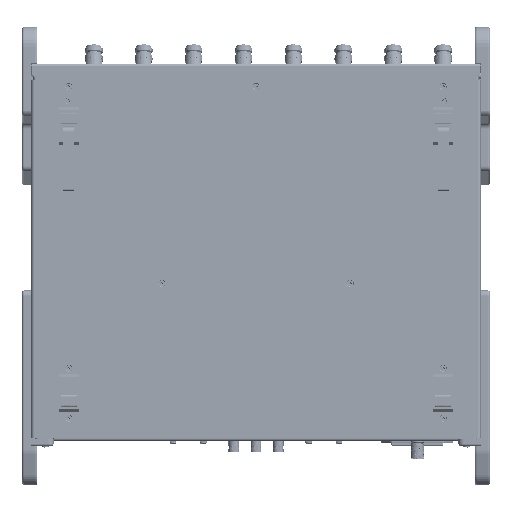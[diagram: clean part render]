
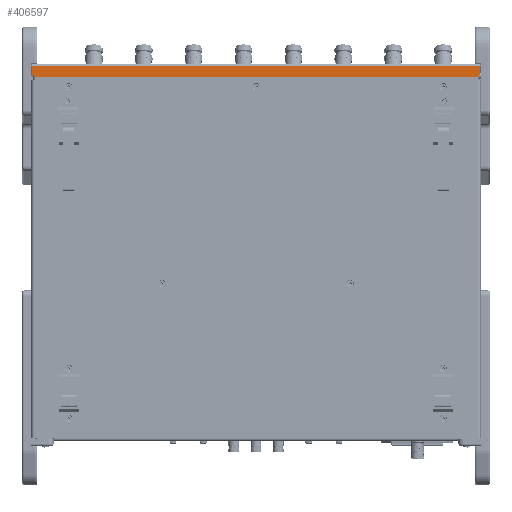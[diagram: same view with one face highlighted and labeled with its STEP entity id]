
A CAD part, front view. The second image highlights one B-rep face of the part: STEP entity #406597.
In plain terms, the highlighted planar face has unit normal (0, -1, 0).
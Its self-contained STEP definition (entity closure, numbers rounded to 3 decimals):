
#8606 = CARTESIAN_POINT ( 'NONE',  ( 201.75, -44., 334.7 ) ) ;
#13978 = EDGE_CURVE ( 'NONE', #254288, #163078, #239629, .T. ) ;
#41093 = EDGE_CURVE ( 'NONE', #395639, #87879, #345083, .T. ) ;
#66306 = CARTESIAN_POINT ( 'NONE',  ( 201.75, -44., 334.7 ) ) ;
#79647 = CARTESIAN_POINT ( 'NONE',  ( -201.75, -44., 328. ) ) ;
#81556 = DIRECTION ( 'NONE',  ( 0., 0., -1. ) ) ;
#87879 = VERTEX_POINT ( 'NONE', #499036 ) ;
#102475 = CARTESIAN_POINT ( 'NONE',  ( 201.75, -44., 325. ) ) ;
#112726 = ORIENTED_EDGE ( 'NONE', *, *, #41093, .T. ) ;
#113231 = ORIENTED_EDGE ( 'NONE', *, *, #572602, .T. ) ;
#125486 = CARTESIAN_POINT ( 'NONE',  ( 198.75, -44., 328. ) ) ;
#129725 = DIRECTION ( 'NONE',  ( 0., 0., 1. ) ) ;
#144233 = ORIENTED_EDGE ( 'NONE', *, *, #577552, .T. ) ;
#163078 = VERTEX_POINT ( 'NONE', #375217 ) ;
#169753 = DIRECTION ( 'NONE',  ( 0., 0., -1. ) ) ;
#170622 = VECTOR ( 'NONE', #129725, 1000. ) ;
#179384 = LINE ( 'NONE', #258497, #170622 ) ;
#187161 = DIRECTION ( 'NONE',  ( -1., 0., 0. ) ) ;
#188824 = VECTOR ( 'NONE', #415298, 1000. ) ;
#225242 = LINE ( 'NONE', #8606, #260059 ) ;
#225870 = CIRCLE ( 'NONE', #496701, 3. ) ;
#226417 = DIRECTION ( 'NONE',  ( 0., -1., 0. ) ) ;
#232547 = ORIENTED_EDGE ( 'NONE', *, *, #529374, .T. ) ;
#236773 = CARTESIAN_POINT ( 'NONE',  ( -201.75, -44., 325. ) ) ;
#239629 = LINE ( 'NONE', #236773, #188824 ) ;
#254288 = VERTEX_POINT ( 'NONE', #79647 ) ;
#258497 = CARTESIAN_POINT ( 'NONE',  ( 201.75, -44., 325. ) ) ;
#260059 = VECTOR ( 'NONE', #187161, 1000. ) ;
#261518 = ORIENTED_EDGE ( 'NONE', *, *, #373826, .F. ) ;
#307523 = AXIS2_PLACEMENT_3D ( 'NONE', #125486, #435707, #81556 ) ;
#324872 = LINE ( 'NONE', #102475, #443080 ) ;
#325970 = CARTESIAN_POINT ( 'NONE',  ( -198.75, -44., 325. ) ) ;
#334043 = AXIS2_PLACEMENT_3D ( 'NONE', #402106, #226417, #355330 ) ;
#345083 = CIRCLE ( 'NONE', #307523, 3. ) ;
#355330 = DIRECTION ( 'NONE',  ( 0., 0., -1. ) ) ;
#373826 = EDGE_CURVE ( 'NONE', #395639, #515204, #324872, .T. ) ;
#375217 = CARTESIAN_POINT ( 'NONE',  ( -201.75, -44., 334.7 ) ) ;
#392173 = CARTESIAN_POINT ( 'NONE',  ( -198.75, -44., 328. ) ) ;
#395639 = VERTEX_POINT ( 'NONE', #533040 ) ;
#402106 = CARTESIAN_POINT ( 'NONE',  ( 201.75, -44., 325. ) ) ;
#404987 = PLANE ( 'NONE',  #334043 ) ;
#406597 = ADVANCED_FACE ( 'NONE', ( #539654 ), #404987, .T. ) ;
#415298 = DIRECTION ( 'NONE',  ( 0., 0., 1. ) ) ;
#435707 = DIRECTION ( 'NONE',  ( 0., -1., 0. ) ) ;
#443080 = VECTOR ( 'NONE', #547350, 1000. ) ;
#496701 = AXIS2_PLACEMENT_3D ( 'NONE', #392173, #570787, #169753 ) ;
#497631 = ORIENTED_EDGE ( 'NONE', *, *, #13978, .F. ) ;
#499036 = CARTESIAN_POINT ( 'NONE',  ( 201.75, -44., 328. ) ) ;
#511246 = VERTEX_POINT ( 'NONE', #66306 ) ;
#515204 = VERTEX_POINT ( 'NONE', #325970 ) ;
#529374 = EDGE_CURVE ( 'NONE', #254288, #515204, #225870, .T. ) ;
#533040 = CARTESIAN_POINT ( 'NONE',  ( 198.75, -44., 325. ) ) ;
#539654 = FACE_OUTER_BOUND ( 'NONE', #578676, .T. ) ;
#547350 = DIRECTION ( 'NONE',  ( -1., 0., 0. ) ) ;
#570787 = DIRECTION ( 'NONE',  ( 0., -1., 0. ) ) ;
#572602 = EDGE_CURVE ( 'NONE', #511246, #163078, #225242, .T. ) ;
#577552 = EDGE_CURVE ( 'NONE', #87879, #511246, #179384, .T. ) ;
#578676 = EDGE_LOOP ( 'NONE', ( #261518, #112726, #144233, #113231, #497631, #232547 ) ) ;
